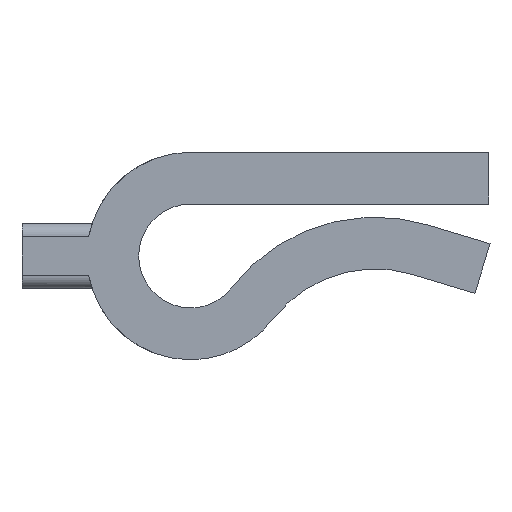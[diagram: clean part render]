
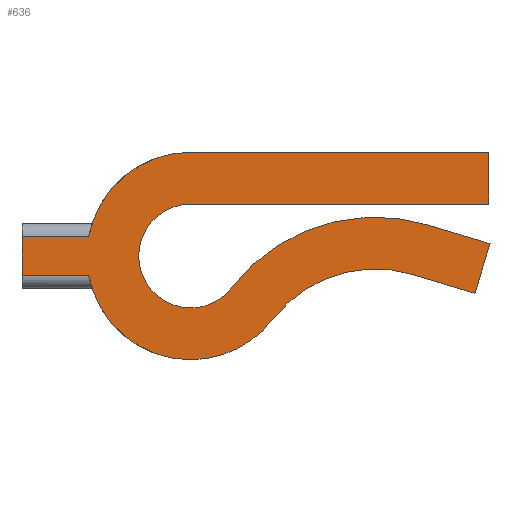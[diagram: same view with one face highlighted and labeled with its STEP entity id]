
A CAD part, left-side view. The second image highlights one B-rep face of the part: STEP entity #636.
In plain terms, the highlighted planar face has unit normal (-1, 0, 0).
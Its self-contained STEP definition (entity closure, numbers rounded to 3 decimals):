
#322=CARTESIAN_POINT('Vertex',(0.,13.,-1.5)) ;
#325=CARTESIAN_POINT('Line Origine',(0.,13.,0.)) ;
#329=CARTESIAN_POINT('Vertex',(0.,13.,1.5)) ;
#495=CARTESIAN_POINT('Line Origine',(0.,10.,-1.5)) ;
#499=CARTESIAN_POINT('Vertex',(0.,7.858,-1.5)) ;
#517=CARTESIAN_POINT('Axis2P3D Location',(0.,0.,0.)) ;
#522=CARTESIAN_POINT('Line Origine',(0.,-11.5,8.)) ;
#526=CARTESIAN_POINT('Vertex',(0.,-23.,8.)) ;
#528=CARTESIAN_POINT('Vertex',(0.,0.,8.)) ;
#531=CARTESIAN_POINT('Axis2P3D Location',(0.,0.,0.)) ;
#535=CARTESIAN_POINT('Vertex',(0.,7.858,1.5)) ;
#538=CARTESIAN_POINT('Line Origine',(0.,10.429,1.5)) ;
#543=CARTESIAN_POINT('Axis2P3D Location',(0.,0.,0.)) ;
#547=CARTESIAN_POINT('Vertex',(0.,0.,-8.)) ;
#550=CARTESIAN_POINT('Axis2P3D Location',(0.,0.,0.)) ;
#554=CARTESIAN_POINT('Vertex',(0.,-6.332,-4.889)) ;
#557=CARTESIAN_POINT('Axis2P3D Location',(0.,-14.248,-11.)) ;
#561=CARTESIAN_POINT('Vertex',(0.,-17.142,-1.428)) ;
#564=CARTESIAN_POINT('Line Origine',(0.,-19.535,-2.151)) ;
#568=CARTESIAN_POINT('Vertex',(0.,-21.928,-2.875)) ;
#571=CARTESIAN_POINT('Line Origine',(0.,-22.507,-0.961)) ;
#575=CARTESIAN_POINT('Vertex',(0.,-23.086,0.954)) ;
#578=CARTESIAN_POINT('Line Origine',(0.,-20.693,1.677)) ;
#582=CARTESIAN_POINT('Vertex',(0.,-18.3,2.401)) ;
#585=CARTESIAN_POINT('Axis2P3D Location',(0.,-14.248,-11.)) ;
#589=CARTESIAN_POINT('Vertex',(0.,-3.166,-2.444)) ;
#592=CARTESIAN_POINT('Axis2P3D Location',(0.,0.,0.)) ;
#596=CARTESIAN_POINT('Vertex',(0.,0.,-4.)) ;
#599=CARTESIAN_POINT('Axis2P3D Location',(0.,0.,0.)) ;
#603=CARTESIAN_POINT('Vertex',(0.,0.,4.)) ;
#606=CARTESIAN_POINT('Line Origine',(0.,-11.5,4.)) ;
#610=CARTESIAN_POINT('Vertex',(0.,-23.,4.)) ;
#613=CARTESIAN_POINT('Line Origine',(0.,-23.,6.)) ;
#326=DIRECTION('Vector Direction',(0.,0.,-1.)) ;
#496=DIRECTION('Vector Direction',(0.,-1.,0.)) ;
#518=DIRECTION('Axis2P3D Direction',(-1.,0.,0.)) ;
#519=DIRECTION('Axis2P3D XDirection',(0.,-1.,0.)) ;
#523=DIRECTION('Vector Direction',(0.,1.,0.)) ;
#532=DIRECTION('Axis2P3D Direction',(-1.,0.,0.)) ;
#539=DIRECTION('Vector Direction',(0.,1.,0.)) ;
#544=DIRECTION('Axis2P3D Direction',(-1.,0.,0.)) ;
#551=DIRECTION('Axis2P3D Direction',(-1.,0.,0.)) ;
#558=DIRECTION('Axis2P3D Direction',(-1.,0.,0.)) ;
#565=DIRECTION('Vector Direction',(0.,-0.957,-0.289)) ;
#572=DIRECTION('Vector Direction',(0.,-0.289,0.957)) ;
#579=DIRECTION('Vector Direction',(0.,0.957,0.289)) ;
#586=DIRECTION('Axis2P3D Direction',(-1.,0.,0.)) ;
#593=DIRECTION('Axis2P3D Direction',(-1.,0.,0.)) ;
#600=DIRECTION('Axis2P3D Direction',(-1.,0.,0.)) ;
#607=DIRECTION('Vector Direction',(0.,-1.,0.)) ;
#614=DIRECTION('Vector Direction',(0.,0.,1.)) ;
#520=AXIS2_PLACEMENT_3D('Plane Axis2P3D',#517,#518,#519) ;
#533=AXIS2_PLACEMENT_3D('Circle Axis2P3D',#531,#532,$) ;
#545=AXIS2_PLACEMENT_3D('Circle Axis2P3D',#543,#544,$) ;
#552=AXIS2_PLACEMENT_3D('Circle Axis2P3D',#550,#551,$) ;
#559=AXIS2_PLACEMENT_3D('Circle Axis2P3D',#557,#558,$) ;
#587=AXIS2_PLACEMENT_3D('Circle Axis2P3D',#585,#586,$) ;
#594=AXIS2_PLACEMENT_3D('Circle Axis2P3D',#592,#593,$) ;
#601=AXIS2_PLACEMENT_3D('Circle Axis2P3D',#599,#600,$) ;
#619=ORIENTED_EDGE('',*,*,#530,.T.) ;
#620=ORIENTED_EDGE('',*,*,#537,.T.) ;
#621=ORIENTED_EDGE('',*,*,#542,.T.) ;
#622=ORIENTED_EDGE('',*,*,#331,.T.) ;
#623=ORIENTED_EDGE('',*,*,#501,.F.) ;
#624=ORIENTED_EDGE('',*,*,#549,.T.) ;
#625=ORIENTED_EDGE('',*,*,#556,.T.) ;
#626=ORIENTED_EDGE('',*,*,#563,.T.) ;
#627=ORIENTED_EDGE('',*,*,#570,.T.) ;
#628=ORIENTED_EDGE('',*,*,#577,.T.) ;
#629=ORIENTED_EDGE('',*,*,#584,.T.) ;
#630=ORIENTED_EDGE('',*,*,#591,.T.) ;
#631=ORIENTED_EDGE('',*,*,#598,.T.) ;
#632=ORIENTED_EDGE('',*,*,#605,.T.) ;
#633=ORIENTED_EDGE('',*,*,#612,.T.) ;
#634=ORIENTED_EDGE('',*,*,#617,.T.) ;
#327=VECTOR('Line Direction',#326,1.) ;
#497=VECTOR('Line Direction',#496,1.) ;
#524=VECTOR('Line Direction',#523,1.) ;
#540=VECTOR('Line Direction',#539,1.) ;
#566=VECTOR('Line Direction',#565,1.) ;
#573=VECTOR('Line Direction',#572,1.) ;
#580=VECTOR('Line Direction',#579,1.) ;
#608=VECTOR('Line Direction',#607,1.) ;
#615=VECTOR('Line Direction',#614,1.) ;
#636=ADVANCED_FACE('CLIP G',(#635),#521,.T.) ;
#534=CIRCLE('generated circle',#533,8.) ;
#546=CIRCLE('generated circle',#545,8.) ;
#553=CIRCLE('generated circle',#552,8.) ;
#560=CIRCLE('generated circle',#559,10.) ;
#588=CIRCLE('generated circle',#587,14.) ;
#595=CIRCLE('generated circle',#594,4.) ;
#602=CIRCLE('generated circle',#601,4.) ;
#331=EDGE_CURVE('',#330,#323,#328,.T.) ;
#501=EDGE_CURVE('',#500,#323,#498,.F.) ;
#530=EDGE_CURVE('',#527,#529,#525,.T.) ;
#537=EDGE_CURVE('',#529,#536,#534,.T.) ;
#542=EDGE_CURVE('',#536,#330,#541,.T.) ;
#549=EDGE_CURVE('',#500,#548,#546,.T.) ;
#556=EDGE_CURVE('',#548,#555,#553,.T.) ;
#563=EDGE_CURVE('',#555,#562,#560,.F.) ;
#570=EDGE_CURVE('',#562,#569,#567,.T.) ;
#577=EDGE_CURVE('',#569,#576,#574,.T.) ;
#584=EDGE_CURVE('',#576,#583,#581,.T.) ;
#591=EDGE_CURVE('',#583,#590,#588,.T.) ;
#598=EDGE_CURVE('',#590,#597,#595,.F.) ;
#605=EDGE_CURVE('',#597,#604,#602,.F.) ;
#612=EDGE_CURVE('',#604,#611,#609,.T.) ;
#617=EDGE_CURVE('',#611,#527,#616,.T.) ;
#618=EDGE_LOOP('',(#619,#620,#621,#622,#623,#624,#625,#626,#627,#628,#629,#630,#631,#632,#633,#634)) ;
#635=FACE_OUTER_BOUND('',#618,.T.) ;
#328=LINE('Line',#325,#327) ;
#498=LINE('Line',#495,#497) ;
#525=LINE('Line',#522,#524) ;
#541=LINE('Line',#538,#540) ;
#567=LINE('Line',#564,#566) ;
#574=LINE('Line',#571,#573) ;
#581=LINE('Line',#578,#580) ;
#609=LINE('Line',#606,#608) ;
#616=LINE('Line',#613,#615) ;
#521=PLANE('Plane',#520) ;
#323=VERTEX_POINT('',#322) ;
#330=VERTEX_POINT('',#329) ;
#500=VERTEX_POINT('',#499) ;
#527=VERTEX_POINT('',#526) ;
#529=VERTEX_POINT('',#528) ;
#536=VERTEX_POINT('',#535) ;
#548=VERTEX_POINT('',#547) ;
#555=VERTEX_POINT('',#554) ;
#562=VERTEX_POINT('',#561) ;
#569=VERTEX_POINT('',#568) ;
#576=VERTEX_POINT('',#575) ;
#583=VERTEX_POINT('',#582) ;
#590=VERTEX_POINT('',#589) ;
#597=VERTEX_POINT('',#596) ;
#604=VERTEX_POINT('',#603) ;
#611=VERTEX_POINT('',#610) ;
